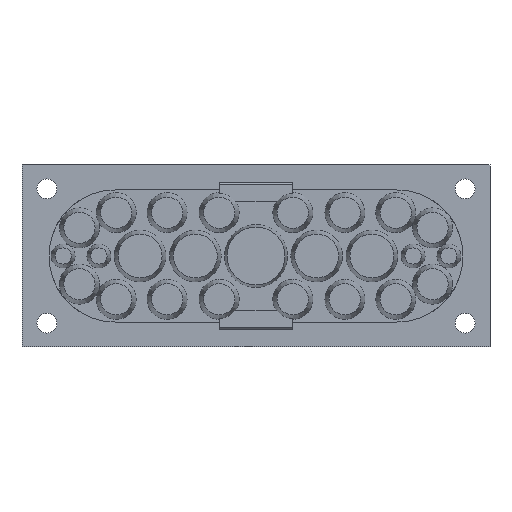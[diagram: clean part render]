
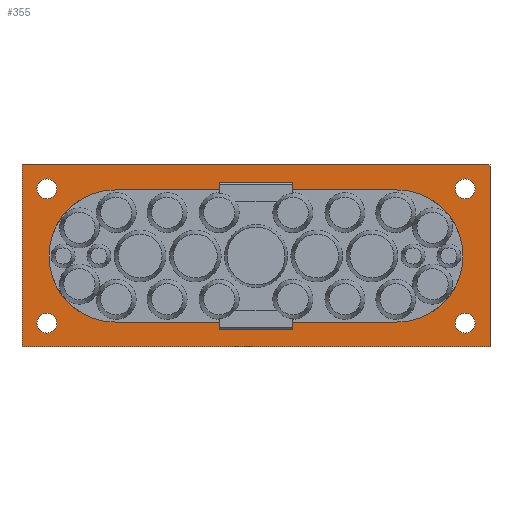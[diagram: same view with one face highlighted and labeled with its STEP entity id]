
A CAD part, front view. The second image highlights one B-rep face of the part: STEP entity #355.
In plain terms, the highlighted planar face has unit normal (0, -1, 0).
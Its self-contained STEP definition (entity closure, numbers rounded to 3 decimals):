
#355 = ADVANCED_FACE( '', ( #910, #911, #912, #913, #914, #915 ), #916, .F. );
#910 = FACE_BOUND( '', #1669, .T. );
#911 = FACE_BOUND( '', #1670, .T. );
#912 = FACE_BOUND( '', #1671, .T. );
#913 = FACE_BOUND( '', #1672, .T. );
#914 = FACE_BOUND( '', #1673, .T. );
#915 = FACE_OUTER_BOUND( '', #1674, .T. );
#916 = PLANE( '', #1675 );
#1669 = EDGE_LOOP( '', ( #2667, #2668, #2669, #2670 ) );
#1670 = EDGE_LOOP( '', ( #2671 ) );
#1671 = EDGE_LOOP( '', ( #2672 ) );
#1672 = EDGE_LOOP( '', ( #2673 ) );
#1673 = EDGE_LOOP( '', ( #2674 ) );
#1674 = EDGE_LOOP( '', ( #2675, #2676, #2677, #2678 ) );
#1675 = AXIS2_PLACEMENT_3D( '', #2679, #2680, #2681 );
#2667 = ORIENTED_EDGE( '', *, *, #3799, .F. );
#2668 = ORIENTED_EDGE( '', *, *, #3800, .F. );
#2669 = ORIENTED_EDGE( '', *, *, #3801, .F. );
#2670 = ORIENTED_EDGE( '', *, *, #3694, .F. );
#2671 = ORIENTED_EDGE( '', *, *, #3802, .T. );
#2672 = ORIENTED_EDGE( '', *, *, #3803, .T. );
#2673 = ORIENTED_EDGE( '', *, *, #3804, .T. );
#2674 = ORIENTED_EDGE( '', *, *, #3609, .T. );
#2675 = ORIENTED_EDGE( '', *, *, #3805, .F. );
#2676 = ORIENTED_EDGE( '', *, *, #3806, .F. );
#2677 = ORIENTED_EDGE( '', *, *, #3807, .F. );
#2678 = ORIENTED_EDGE( '', *, *, #3808, .F. );
#2679 = CARTESIAN_POINT( '', ( 0., 0., 0. ) );
#2680 = DIRECTION( '', ( 0., 1., 0. ) );
#2681 = DIRECTION( '', ( 0., 0., 1. ) );
#3609 = EDGE_CURVE( '', #4152, #4152, #4153, .T. );
#3694 = EDGE_CURVE( '', #4299, #4301, #4302, .F. );
#3799 = EDGE_CURVE( '', #4465, #4299, #4466, .T. );
#3800 = EDGE_CURVE( '', #4467, #4465, #4468, .F. );
#3801 = EDGE_CURVE( '', #4301, #4467, #4469, .T. );
#3802 = EDGE_CURVE( '', #4470, #4470, #4471, .T. );
#3803 = EDGE_CURVE( '', #4472, #4472, #4473, .T. );
#3804 = EDGE_CURVE( '', #4474, #4474, #4475, .T. );
#3805 = EDGE_CURVE( '', #4476, #4477, #4478, .T. );
#3806 = EDGE_CURVE( '', #4479, #4476, #4480, .T. );
#3807 = EDGE_CURVE( '', #4481, #4479, #4482, .T. );
#3808 = EDGE_CURVE( '', #4477, #4481, #4483, .T. );
#4152 = VERTEX_POINT( '', #4914 );
#4153 = CIRCLE( '', #4915, 4.6 );
#4299 = VERTEX_POINT( '', #5106 );
#4301 = VERTEX_POINT( '', #5109 );
#4302 = CIRCLE( '', #5110, 30.5 );
#4465 = VERTEX_POINT( '', #5318 );
#4466 = LINE( '', #5319, #5320 );
#4467 = VERTEX_POINT( '', #5321 );
#4468 = CIRCLE( '', #5322, 30.5 );
#4469 = LINE( '', #5323, #5324 );
#4470 = VERTEX_POINT( '', #5325 );
#4471 = CIRCLE( '', #5326, 4.6 );
#4472 = VERTEX_POINT( '', #5327 );
#4473 = CIRCLE( '', #5328, 4.6 );
#4474 = VERTEX_POINT( '', #5329 );
#4475 = CIRCLE( '', #5330, 4.6 );
#4476 = VERTEX_POINT( '', #5331 );
#4477 = VERTEX_POINT( '', #5332 );
#4478 = LINE( '', #5333, #5334 );
#4479 = VERTEX_POINT( '', #5335 );
#4480 = LINE( '', #5336, #5337 );
#4481 = VERTEX_POINT( '', #5338 );
#4482 = LINE( '', #5339, #5340 );
#4483 = LINE( '', #5341, #5342 );
#4914 = CARTESIAN_POINT( '', ( 101.1, 0., 31. ) );
#4915 = AXIS2_PLACEMENT_3D( '', #5781, #5782, #5783 );
#5106 = CARTESIAN_POINT( '', ( 65., 0., -30.5 ) );
#5109 = CARTESIAN_POINT( '', ( 65., 0., 30.5 ) );
#5110 = AXIS2_PLACEMENT_3D( '', #5935, #5936, #5937 );
#5318 = CARTESIAN_POINT( '', ( -65., 0., -30.5 ) );
#5319 = CARTESIAN_POINT( '', ( 0., 0., -30.5 ) );
#5320 = VECTOR( '', #6103, 1000. );
#5321 = CARTESIAN_POINT( '', ( -65., 0., 30.5 ) );
#5322 = AXIS2_PLACEMENT_3D( '', #6104, #6105, #6106 );
#5323 = CARTESIAN_POINT( '', ( 0., 0., 30.5 ) );
#5324 = VECTOR( '', #6107, 1000. );
#5325 = CARTESIAN_POINT( '', ( -91.9, 0., -31. ) );
#5326 = AXIS2_PLACEMENT_3D( '', #6108, #6109, #6110 );
#5327 = CARTESIAN_POINT( '', ( -91.9, 0., 31. ) );
#5328 = AXIS2_PLACEMENT_3D( '', #6111, #6112, #6113 );
#5329 = CARTESIAN_POINT( '', ( 101.1, 0., -31. ) );
#5330 = AXIS2_PLACEMENT_3D( '', #6114, #6115, #6116 );
#5331 = CARTESIAN_POINT( '', ( 108., 0., -42. ) );
#5332 = CARTESIAN_POINT( '', ( -108., 0., -42. ) );
#5333 = CARTESIAN_POINT( '', ( 108., 0., -42. ) );
#5334 = VECTOR( '', #6117, 1000. );
#5335 = CARTESIAN_POINT( '', ( 108., 0., 42. ) );
#5336 = CARTESIAN_POINT( '', ( 108., 0., 42. ) );
#5337 = VECTOR( '', #6118, 1000. );
#5338 = CARTESIAN_POINT( '', ( -108., 0., 42. ) );
#5339 = CARTESIAN_POINT( '', ( -108., 0., 42. ) );
#5340 = VECTOR( '', #6119, 1000. );
#5341 = CARTESIAN_POINT( '', ( -108., 0., -42. ) );
#5342 = VECTOR( '', #6120, 1000. );
#5781 = CARTESIAN_POINT( '', ( 96.5, 0., 31. ) );
#5782 = DIRECTION( '', ( 0., 1., 0. ) );
#5783 = DIRECTION( '', ( 1., 0., 0. ) );
#5935 = CARTESIAN_POINT( '', ( 65., 0., 0. ) );
#5936 = DIRECTION( '', ( 0., 1., 0. ) );
#5937 = DIRECTION( '', ( 0., 0., 1. ) );
#6103 = DIRECTION( '', ( 1., 0., 0. ) );
#6104 = CARTESIAN_POINT( '', ( -65., 0., 0. ) );
#6105 = DIRECTION( '', ( 0., 1., 0. ) );
#6106 = DIRECTION( '', ( 0., 0., 1. ) );
#6107 = DIRECTION( '', ( -1., 0., 0. ) );
#6108 = CARTESIAN_POINT( '', ( -96.5, 0., -31. ) );
#6109 = DIRECTION( '', ( 0., 1., 0. ) );
#6110 = DIRECTION( '', ( 1., 0., 0. ) );
#6111 = CARTESIAN_POINT( '', ( -96.5, 0., 31. ) );
#6112 = DIRECTION( '', ( 0., 1., 0. ) );
#6113 = DIRECTION( '', ( 1., 0., 0. ) );
#6114 = CARTESIAN_POINT( '', ( 96.5, 0., -31. ) );
#6115 = DIRECTION( '', ( 0., 1., 0. ) );
#6116 = DIRECTION( '', ( 1., 0., 0. ) );
#6117 = DIRECTION( '', ( -1., 0., 0. ) );
#6118 = DIRECTION( '', ( 0., 0., -1. ) );
#6119 = DIRECTION( '', ( 1., 0., 0. ) );
#6120 = DIRECTION( '', ( 0., 0., 1. ) );
